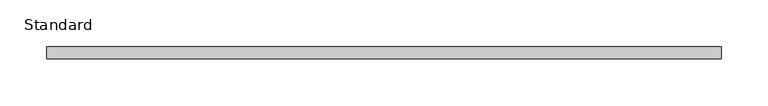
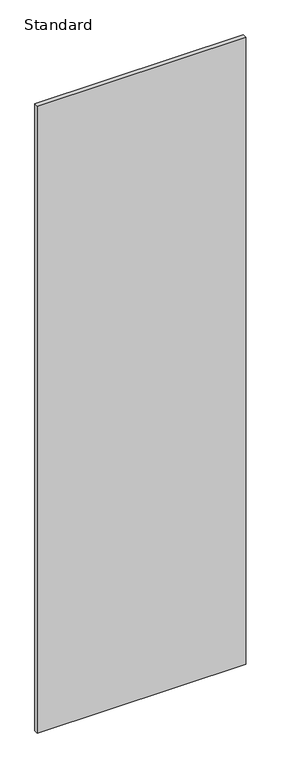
"""IFC4 building model written with IfcOpenShell, lengths in millimetres: furniture geometry, X_Partition-Compact Laminate-Duracube-Door : Standard."""

from ifc_helpers import new_model, si_unit, frame, origin, place, context, project, spatial, polyline, outline, extrude, source, transform, mapped, element, save


def standard_12249eb2(model_context):
    return source(origin(), model_context, "Body", "SweptSolid", [
        extrude(outline(polyline([(407.2003264, 0.0), (407.2003264, -13.0), (-317.7996736, -13.0), (-317.7996736, 0.0), (407.2003264, 0.0)])), frame((0.0, 0.0, 20.0), z_axis=(0.0, 0.0, 1.0), x_axis=(1.0, 0.0, 0.0)), (0.0, 0.0, 1.0), 2304.0),
    ])


if __name__ == "__main__":
    model = new_model("IFC4")
    model_context = context("Model", 3, world=origin())
    ifc_project = project(units=[si_unit("LENGTHUNIT", "METRE", prefix="MILLI")], contexts=[model_context])
    site = spatial("IfcSite", under=ifc_project)
    building = spatial("IfcBuilding", under=site)
    placement = place(None, origin())
    standard_shape = standard_12249eb2(model_context)
    element("IfcFurniture", 1, ObjectType="X_Partition-Compact Laminate-Duracube-Door : Standard", at=placement, inside=building, context=model_context, shape_type="MappedRepresentation", body=[
        mapped(standard_shape, transform((0.0, 0.0, 0.0), x_axis=(1.0, 0.0, 0.0), y_axis=(0.0, 1.0, 0.0), z_axis=(0.0, 0.0, 1.0))),
    ])
    save(model, "model.ifc")
